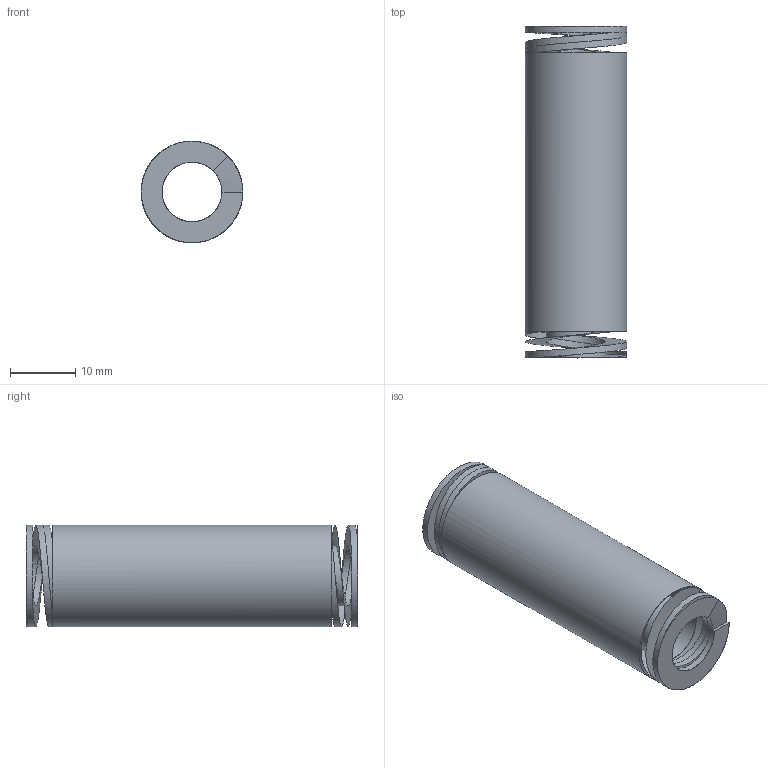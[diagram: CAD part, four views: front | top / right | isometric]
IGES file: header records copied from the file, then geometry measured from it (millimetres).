
Global section: file name: 2S16050; native system: Autodesk Inventor 2026; preprocessor: unknown; author: J. Iwanek; date: 20261007.112638; units: millimetre
Bounding box: 15.61 x 51 x 15.61 mm (x, y, z)
Volume: 3153.3 mm3; surface area: 4233.9 mm2
Topology: 1 solids, 1 shells, 22 faces, 78 edges, 48 vertices
Faces by surface type: bspline 22
